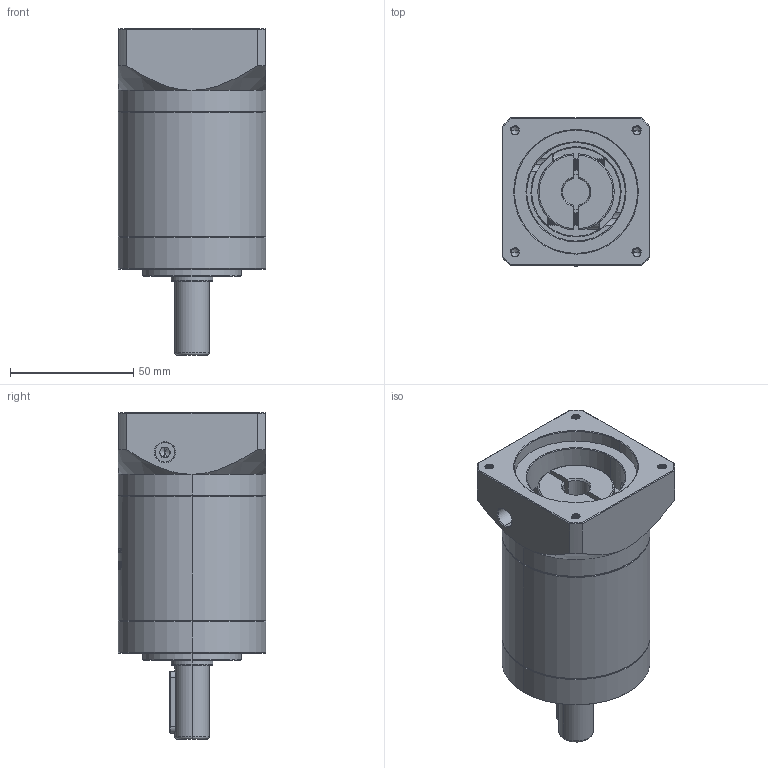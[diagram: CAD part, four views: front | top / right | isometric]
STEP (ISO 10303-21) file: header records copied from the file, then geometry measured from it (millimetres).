
FILE_DESCRIPTION (( 'STEP AP214' ), '1' );
FILE_NAME ('ZE60-D14-L2-11-50-70-M4.STEP', '2022-04-17T15:15:36', ( '' ), ( 'Microsoft' ), 'SwSTEP 2.0', 'SolidWorks 2016', '' );
FILE_SCHEMA (( 'AUTOMOTIVE_DESIGN' ));
Length unit declared in the file: millimetre
Products named in the file (1): ZE60-D14-L2-11-50-70-M4
Bounding box: 60 x 60 x 132.5 mm (x, y, z)
Volume: 262952.1 mm3; surface area: 45891.8 mm2
Topology: 6 solids, 6 shells, 1706 faces, 4641 edges, 3007 vertices
Faces by surface type: plane 732, cylinder 423, bspline 311, cone 220, torus 20
Entity records: 99992 total; most frequent: CARTESIAN_POINT 42558, ORIENTED_EDGE 9238, DIRECTION 6589, EDGE_CURVE 4619, VERTEX_POINT 3007, VECTOR 2299, LINE 2299, AXIS2_PLACEMENT_3D 2145
